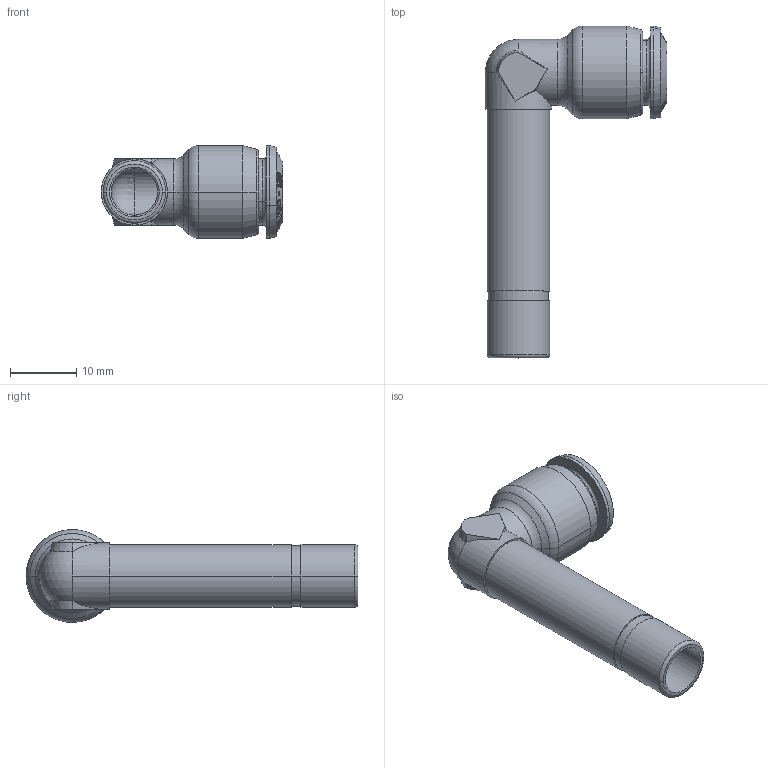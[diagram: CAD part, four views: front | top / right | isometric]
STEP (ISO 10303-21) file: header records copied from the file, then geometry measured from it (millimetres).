
FILE_DESCRIPTION (( 'STEP AP214' ), '1' );
FILE_NAME ('8515000008.STEP', '2019-10-09T06:24:44', ( 'admin' ), ( '' ), 'SwSTEP 2.0', 'SolidWorks 2016', '' );
FILE_SCHEMA (( 'AUTOMOTIVE_DESIGN' ));
Length unit declared in the file: millimetre
Products named in the file (1): 8515000008
Bounding box: 27.4 x 50.1 x 14 mm (x, y, z)
Volume: 2736.9 mm3; surface area: 3964.3 mm2
Topology: 1 solids, 1 shells, 192 faces, 480 edges, 305 vertices
Faces by surface type: bspline 97, cone 38, cylinder 24, plane 21, torus 10, sphere 2
Entity records: 13027 total; most frequent: CARTESIAN_POINT 7195, ORIENTED_EDGE 956, EDGE_CURVE 478, DIRECTION 428, B_SPLINE_CURVE_WITH_KNOTS 311, VERTEX_POINT 305, EDGE_LOOP 211, UNCERTAINTY_MEASURE_WITH_UNIT 195
